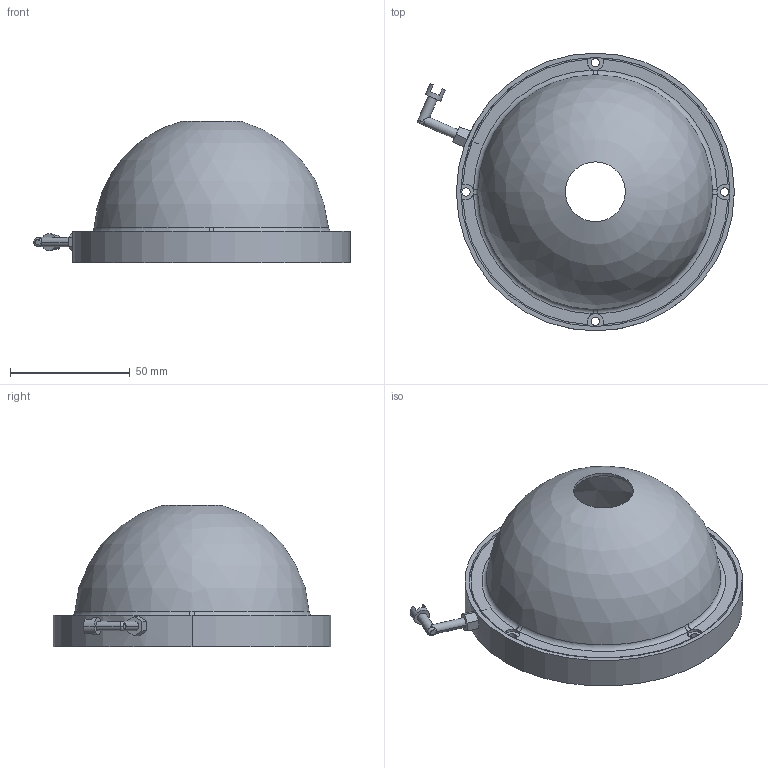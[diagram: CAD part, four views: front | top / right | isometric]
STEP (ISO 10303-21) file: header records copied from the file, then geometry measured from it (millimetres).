
FILE_DESCRIPTION (( 'STEP AP203' ), '1' );
FILE_NAME ('CK-HDL160X-01.STEP', '2025-09-16T06:13:36', ( '' ), ( '' ), 'SwSTEP 2.0', 'SolidWorks 2022', '' );
FILE_SCHEMA (( 'CONFIG_CONTROL_DESIGN' ));
Length unit declared in the file: millimetre
Products named in the file (3): 零件1; CK-HDL160X-01; 零件2
Assembly tree (2 placements, depth 2):
  CK-HDL160X-01
    零件1
    零件2
Bounding box: 132.17 x 116 x 58.88 mm (x, y, z)
Volume: 85261.4 mm3; surface area: 58450.3 mm2
Topology: 2 solids, 2 shells, 110 faces, 279 edges, 171 vertices
Faces by surface type: cylinder 46, plane 38, torus 10, cone 8, bspline 6, sphere 2
Entity records: 3715 total; most frequent: CARTESIAN_POINT 763, DIRECTION 598, ORIENTED_EDGE 532, EDGE_CURVE 266, AXIS2_PLACEMENT_3D 241, VERTEX_POINT 170, CIRCLE 132, EDGE_LOOP 132
